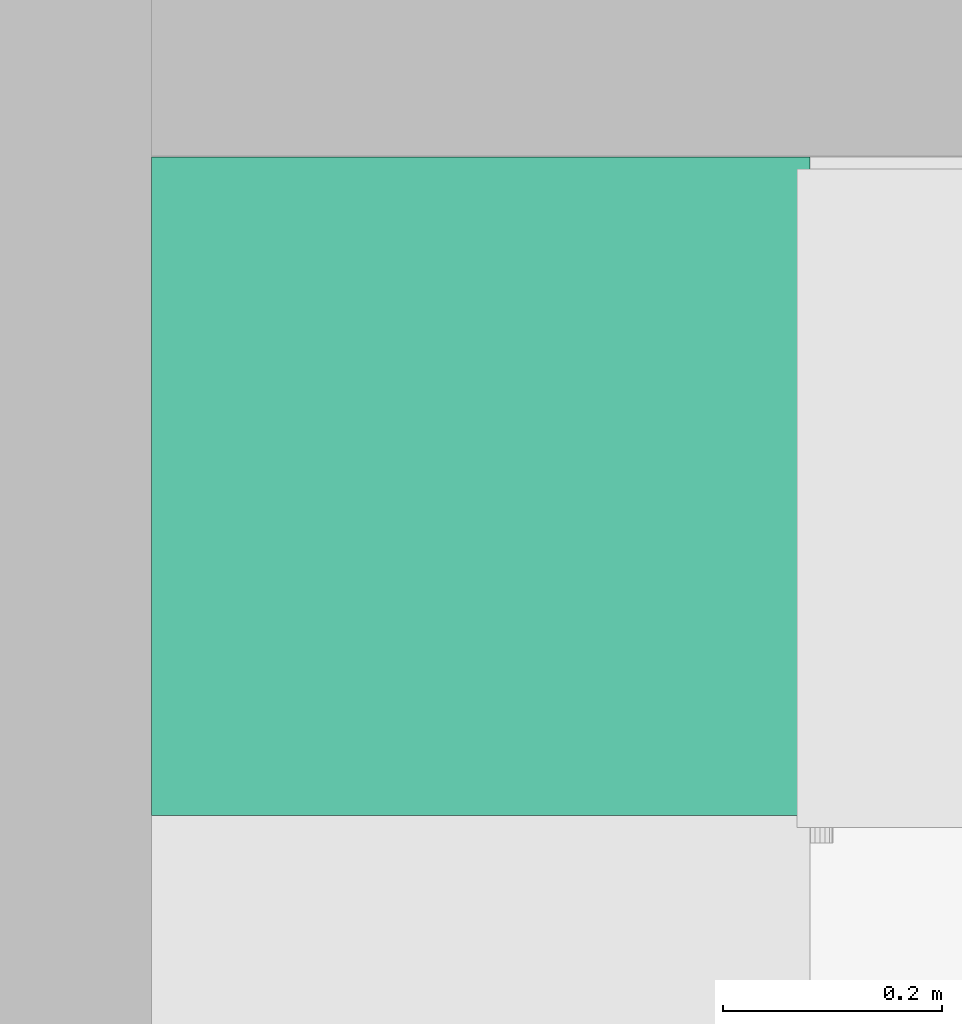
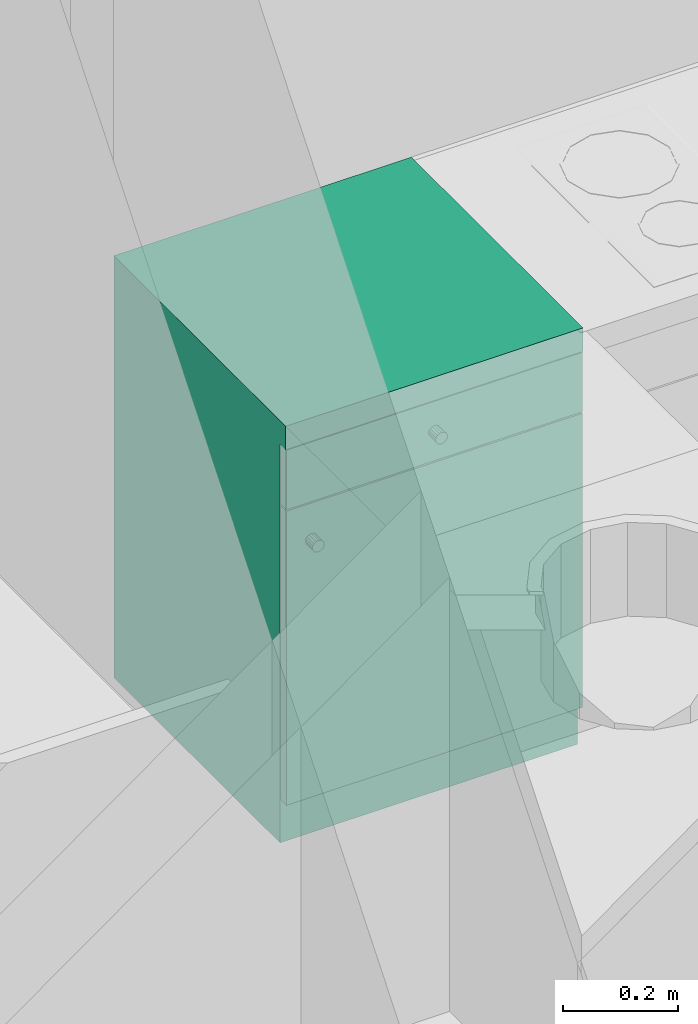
# One storey, part 33 of 165: 1 flow terminal.
"""IFC2X3 building model written with IfcOpenShell, lengths in millimetres."""

from ifc_helpers import new_model, entity, si_unit, converted_unit, money_unit, direction, frame, origin_with_axes, place, context, subcontext, project, spatial, faceted_brep, source, transform, mapped, material, material_list, type_object, element, save


model = new_model("IFC2X3")

# Units and contexts
model_context = context("Model", 3, precision=1e-05, world=origin_with_axes(), true_north=direction((0.0, 1.0)))
body_context = subcontext(model_context, "Body", "Model", "MODEL_VIEW")
ifc_project = project(units=[si_unit("LENGTHUNIT", "METRE", prefix="MILLI"), si_unit("AREAUNIT", "SQUARE_METRE"), si_unit("VOLUMEUNIT", "CUBIC_METRE"), converted_unit("PLANEANGLEUNIT", "DEGREE", entity("IfcPlaneAngleMeasure", 0.0174532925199), si_unit("PLANEANGLEUNIT", "RADIAN"), dimensions=[0, 0, 0, 0, 0, 0, 0]), si_unit("SOLIDANGLEUNIT", "STERADIAN"), money_unit("USD"), converted_unit("TIMEUNIT", "Year", entity("IfcTimeMeasure", 31556926.0), si_unit("TIMEUNIT", "SECOND"), dimensions=[0, 0, 0, 0, 0, 0, 0]), si_unit("MASSUNIT", "GRAM"), si_unit("THERMODYNAMICTEMPERATUREUNIT", "DEGREE_CELSIUS"), si_unit("LUMINOUSINTENSITYUNIT", "LUMEN")], contexts=[model_context])

# Site, building, storey
site_placement = place(None, origin_with_axes())
site = spatial("IfcSite", under=ifc_project, at=site_placement, Name="Site", CompositionType="ELEMENT")
building_placement = place(site_placement, origin_with_axes())
building = spatial("IfcBuilding", under=site, at=building_placement, Name="Building", CompositionType="ELEMENT")
storey_placement = place(building_placement, frame((0.0, 0.0, 6300.0), z_axis=(0.0, 0.0, 1.0), x_axis=(1.0, 0.0, 0.0)))
storey = spatial("IfcBuildingStorey", under=building, at=storey_placement, Name="4KORRUS", CompositionType="ELEMENT", Elevation=6300.0)

# Flow terminal
ifc_material = material(Name="Background")
ifc_material_list = material_list([ifc_material])
sanitary_terminal_type = type_object("IfcSanitaryTerminalType", Name="Cabinet Base Single Door 19", PredefinedType="SINK")
shared_shape = source(origin_with_axes(), body_context, "Body", "Brep", [
    faceted_brep([(-20.0, 20.0, 710.0), (-20.0, 20.0, 730.0), (-580.0, 20.0, 730.0), (-580.0, 20.0, 710.0), (-20.0, 580.0, 710.0), (-20.0, 580.0, 730.0), (-580.0, 580.0, 730.0), (-580.0, 580.0, 710.0)], [[[0, 1, 2, 3]], [[4, 5, 1, 0]], [[1, 5, 6, 2]], [[3, 2, 6, 7]], [[0, 3, 7, 4]], [[7, 6, 5, 4]]]),
    faceted_brep([(0.0, 20.0, 0.0), (0.0, 20.0, 90.0), (-600.0, 20.0, 90.0), (-600.0, 20.0, 0.0), (0.0, 600.0, 0.0), (0.0, 600.0, 90.0), (-600.0, 600.0, 90.0), (-600.0, 600.0, 0.0)], [[[0, 1, 2, 3]], [[4, 5, 1, 0]], [[1, 5, 6, 2]], [[3, 2, 6, 7]], [[0, 3, 7, 4]], [[7, 6, 5, 4]]]),
    faceted_brep([(0.0, 20.0, 830.0), (0.0, 20.0, 850.0), (-20.0, 20.0, 850.0), (-20.0, 20.0, 830.0), (0.0, 600.0, 830.0), (0.0, 600.0, 850.0), (-20.0, 600.0, 850.0), (-580.0, 600.0, 850.0), (-600.0, 600.0, 850.0), (-600.0, 20.0, 850.0), (-580.0, 20.0, 850.0), (-580.0, 20.0, 830.0), (-600.0, 20.0, 830.0), (-600.0, 600.0, 830.0), (-580.0, 600.0, 830.0), (-20.0, 600.0, 830.0)], [[[0, 1, 2, 3]], [[4, 5, 1, 0]], [[1, 5, 6, 7, 8, 9, 10, 2]], [[3, 2, 10, 11]], [[0, 3, 11, 12, 13, 14, 15, 4]], [[15, 6, 5, 4]], [[14, 7, 6, 15]], [[13, 8, 7, 14]], [[12, 9, 8, 13]], [[11, 10, 9, 12]]]),
    faceted_brep([(0.0, 20.0, 90.0), (0.0, 20.0, 110.0), (-20.0, 20.0, 110.0), (-20.0, 20.0, 90.0), (0.0, 600.0, 90.0), (0.0, 600.0, 110.0), (-20.0, 600.0, 110.0), (-580.0, 600.0, 110.0), (-600.0, 600.0, 110.0), (-600.0, 20.0, 110.0), (-580.0, 20.0, 110.0), (-580.0, 20.0, 90.0), (-600.0, 20.0, 90.0), (-600.0, 600.0, 90.0), (-580.0, 600.0, 90.0), (-20.0, 600.0, 90.0)], [[[0, 1, 2, 3]], [[4, 5, 1, 0]], [[1, 5, 6, 7, 8, 9, 10, 2]], [[3, 2, 10, 11]], [[0, 3, 11, 12, 13, 14, 15, 4]], [[15, 6, 5, 4]], [[14, 7, 6, 15]], [[13, 8, 7, 14]], [[12, 9, 8, 13]], [[11, 10, 9, 12]]]),
    faceted_brep([(0.0, 20.0, 110.0), (0.0, 20.0, 830.0), (-20.0, 20.0, 830.0), (-20.0, 20.0, 110.0), (0.0, 600.0, 110.0), (0.0, 600.0, 830.0), (-600.0, 600.0, 830.0), (-600.0, 20.0, 830.0), (-580.0, 20.0, 830.0), (-580.0, 580.0, 830.0), (-20.0, 580.0, 830.0), (-20.0, 580.0, 110.0), (-580.0, 580.0, 110.0), (-580.0, 20.0, 110.0), (-600.0, 20.0, 110.0), (-600.0, 600.0, 110.0)], [[[0, 1, 2, 3]], [[4, 5, 1, 0]], [[1, 5, 6, 7, 8, 9, 10, 2]], [[3, 2, 10, 11]], [[0, 3, 11, 12, 13, 14, 15, 4]], [[15, 6, 5, 4]], [[14, 7, 6, 15]], [[13, 8, 7, 14]], [[12, 9, 8, 13]], [[11, 10, 9, 12]]]),
    faceted_brep([(-580.0, 20.0, 385.0), (-580.0, 20.0, 405.0), (-580.0, 580.0, 405.0), (-580.0, 580.0, 385.0), (-20.0, 20.0, 385.0), (-20.0, 20.0, 405.0), (-20.0, 580.0, 405.0), (-20.0, 580.0, 385.0)], [[[0, 1, 2, 3]], [[4, 5, 1, 0]], [[1, 5, 6, 2]], [[3, 2, 6, 7]], [[0, 3, 7, 4]], [[7, 6, 5, 4]]]),
    faceted_brep([(0.0, 0.0, 850.0), (0.0, 0.0, 900.0), (-600.0, 0.0, 900.0), (-600.0, 0.0, 850.0), (0.0, 600.0, 850.0), (0.0, 600.0, 900.0), (-600.0, 600.0, 900.0), (-600.0, 600.0, 850.0)], [[[0, 1, 2, 3]], [[4, 5, 1, 0]], [[1, 5, 6, 2]], [[3, 2, 6, 7]], [[0, 3, 7, 4]], [[7, 6, 5, 4]]]),
    faceted_brep([(-1.5, 20.0, 721.5), (-1.5, 0.0, 721.5), (-598.5, 0.0, 721.5), (-598.5, 20.0, 721.5), (-1.5, 20.0, 848.5), (-1.5, 0.0, 848.5), (-598.5, 0.0, 848.5), (-598.5, 20.0, 848.5)], [[[0, 1, 2, 3]], [[4, 5, 1, 0]], [[1, 5, 6, 2]], [[3, 2, 6, 7]], [[0, 3, 7, 4]], [[7, 6, 5, 4]]]),
    faceted_brep([(-295.408, 0.0, 773.913), (-300.0, 0.0, 773.0), (-304.592, 0.0, 773.913), (-308.485, 0.0, 776.515), (-311.087, 0.0, 780.408), (-312.0, 0.0, 785.0), (-311.087, 0.0, 789.592), (-308.485, 0.0, 793.485), (-304.592, 0.0, 796.087), (-300.0, 0.0, 797.0), (-295.408, 0.0, 796.087), (-291.515, 0.0, 793.485), (-288.913, 0.0, 789.592), (-288.0, 0.0, 785.0), (-288.913, 0.0, 780.408), (-291.515, 0.0, 776.515), (-295.408, -25.0, 773.913), (-300.0, -25.0, 773.0), (-304.592, -25.0, 773.913), (-308.485, -25.0, 776.515), (-311.087, -25.0, 780.408), (-312.0, -25.0, 785.0), (-311.087, -25.0, 789.592), (-308.485, -25.0, 793.485), (-304.592, -25.0, 796.087), (-300.0, -25.0, 797.0), (-295.408, -25.0, 796.087), (-291.515, -25.0, 793.485), (-288.913, -25.0, 789.592), (-288.0, -25.0, 785.0), (-288.913, -25.0, 780.408), (-291.515, -25.0, 776.515)], [[[0, 1, 2, 3, 4, 5, 6, 7, 8, 9, 10, 11, 12, 13, 14, 15]], [[0, 16, 17, 1]], [[1, 17, 18, 2]], [[2, 18, 19, 3]], [[3, 19, 20, 4]], [[4, 20, 21, 5]], [[5, 21, 22, 6]], [[6, 22, 23, 7]], [[7, 23, 24, 8]], [[8, 24, 25, 9]], [[9, 25, 26, 10]], [[10, 26, 27, 11]], [[11, 27, 28, 12]], [[12, 28, 29, 13]], [[13, 29, 30, 14]], [[14, 30, 31, 15]], [[15, 31, 16, 0]], [[16, 31, 30, 29, 28, 27, 26, 25, 24, 23, 22, 21, 20, 19, 18, 17]]]),
    faceted_brep([(-1.5, 20.0, 91.5), (-1.5, 0.0, 91.5), (-598.5, 0.0, 91.5), (-598.5, 20.0, 91.5), (-1.5, 20.0, 718.5), (-1.5, 0.0, 718.5), (-598.5, 0.0, 718.5), (-598.5, 20.0, 718.5)], [[[0, 1, 2, 3]], [[4, 5, 1, 0]], [[1, 5, 6, 2]], [[3, 2, 6, 7]], [[0, 3, 7, 4]], [[7, 6, 5, 4]]]),
    faceted_brep([(-559.587, 0.0, 636.908), (-560.5, 0.0, 641.5), (-559.587, 0.0, 646.092), (-556.985, 0.0, 649.985), (-553.092, 0.0, 652.587), (-548.5, 0.0, 653.5), (-543.908, 0.0, 652.587), (-540.015, 0.0, 649.985), (-537.413, 0.0, 646.092), (-536.5, 0.0, 641.5), (-537.413, 0.0, 636.908), (-540.015, 0.0, 633.015), (-543.908, 0.0, 630.413), (-548.5, 0.0, 629.5), (-553.092, 0.0, 630.413), (-556.985, 0.0, 633.015), (-559.587, -25.0, 636.908), (-560.5, -25.0, 641.5), (-559.587, -25.0, 646.092), (-556.985, -25.0, 649.985), (-553.092, -25.0, 652.587), (-548.5, -25.0, 653.5), (-543.908, -25.0, 652.587), (-540.015, -25.0, 649.985), (-537.413, -25.0, 646.092), (-536.5, -25.0, 641.5), (-537.413, -25.0, 636.908), (-540.015, -25.0, 633.015), (-543.908, -25.0, 630.413), (-548.5, -25.0, 629.5), (-553.092, -25.0, 630.413), (-556.985, -25.0, 633.015)], [[[0, 1, 2, 3, 4, 5, 6, 7, 8, 9, 10, 11, 12, 13, 14, 15]], [[0, 16, 17, 1]], [[1, 17, 18, 2]], [[2, 18, 19, 3]], [[3, 19, 20, 4]], [[4, 20, 21, 5]], [[5, 21, 22, 6]], [[6, 22, 23, 7]], [[7, 23, 24, 8]], [[8, 24, 25, 9]], [[9, 25, 26, 10]], [[10, 26, 27, 11]], [[11, 27, 28, 12]], [[12, 28, 29, 13]], [[13, 29, 30, 14]], [[14, 30, 31, 15]], [[15, 31, 16, 0]], [[16, 31, 30, 29, 28, 27, 26, 25, 24, 23, 22, 21, 20, 19, 18, 17]]]),
])
flow_terminal_placement = place(storey_placement, frame((-41390.2967033, -9967.37850445, 0.0), z_axis=(0.0, 0.0, 1.0), x_axis=(1.0, 0.0, 0.0)))
element("IfcFlowTerminal", 1, at=flow_terminal_placement, inside=storey, type_object=sanitary_terminal_type, material=ifc_material_list, Name="FU - 007", context=body_context, shape_type="MappedRepresentation", body=[
    mapped(shared_shape, transform((0.0, 0.0, 0.0))),
])

save(model, "model.ifc")
